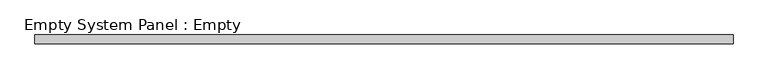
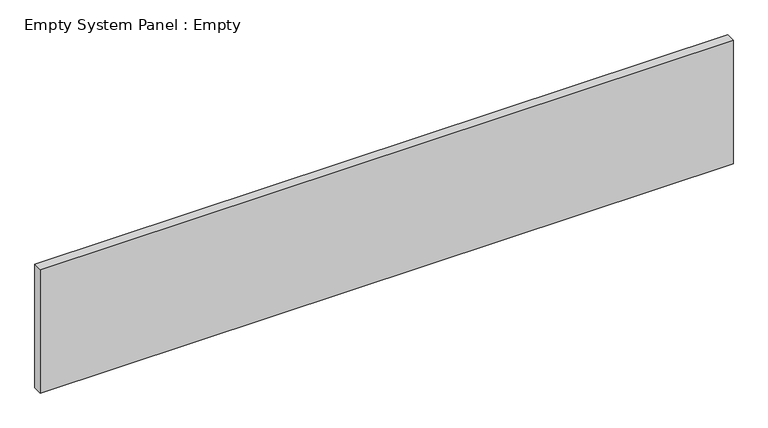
"""IFC4 building model written with IfcOpenShell, lengths in millimetres: plate geometry, Empty System Panel : Empty."""

from ifc_helpers import new_model, si_unit, origin, origin_with_axes, place, context, project, spatial, polyline, outline, extrude, source, transform, mapped, element, save


def empty_system_panel_empty_db0e6698(model_context):
    return source(origin(), model_context, "Body", "SweptSolid", [
        extrude(outline(polyline([(3900.0, -50.0), (-3900.0, -50.0), (-3900.0, 50.0), (3900.0, 50.0), (3900.0, -50.0)])), origin_with_axes(), (0.0, 0.0, 1.0), 1470.0),
    ])


if __name__ == "__main__":
    model = new_model("IFC4")
    model_context = context("Model", 3, world=origin())
    ifc_project = project(units=[si_unit("LENGTHUNIT", "METRE", prefix="MILLI")], contexts=[model_context])
    site = spatial("IfcSite", under=ifc_project)
    building = spatial("IfcBuilding", under=site)
    placement = place(None, origin())
    empty_system_panel_empty_shape = empty_system_panel_empty_db0e6698(model_context)
    element("IfcPlate", 1, ObjectType="Empty System Panel : Empty", at=placement, inside=building, context=model_context, shape_type="MappedRepresentation", body=[
        mapped(empty_system_panel_empty_shape, transform((0.0, 0.0, 0.0), x_axis=(1.0, 0.0, 0.0), y_axis=(0.0, 1.0, 0.0), z_axis=(0.0, 0.0, 1.0))),
    ])
    save(model, "model.ifc")
